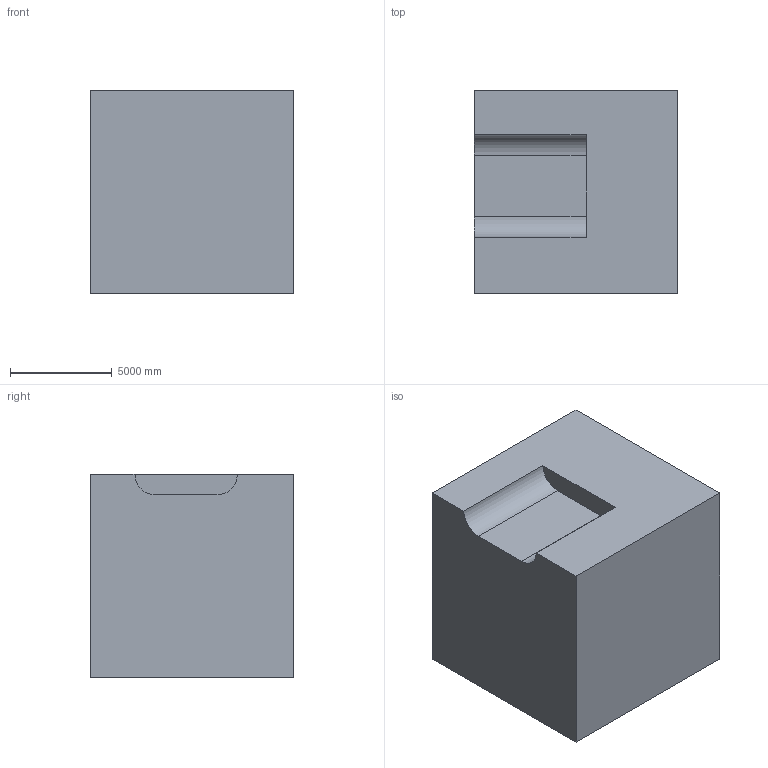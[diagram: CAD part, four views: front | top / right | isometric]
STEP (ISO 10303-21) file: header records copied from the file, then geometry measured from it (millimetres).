
FILE_DESCRIPTION (( 'STEP AP203' ), '1' );
FILE_NAME ('18.STEP', '2022-09-01T11:37:19', ( 'user' ), ( '' ), 'SwSTEP 2.0', 'SolidWorks 2021', '' );
FILE_SCHEMA (( 'CONFIG_CONTROL_DESIGN' ));
Length unit declared in the file: centimetre
Products named in the file (1): 18
Bounding box: 10000 x 10000 x 10000 mm (x, y, z)
Volume: 968126347252.1 mm3; surface area: 631544170.9 mm2
Topology: 1 solids, 1 shells, 13 faces, 30 edges, 20 vertices
Faces by surface type: plane 9, cylinder 4
Entity records: 449 total; most frequent: DIRECTION 66, CARTESIAN_POINT 64, ORIENTED_EDGE 60, EDGE_CURVE 30, AXIS2_PLACEMENT_3D 22, LINE 22, VECTOR 22, VERTEX_POINT 20
